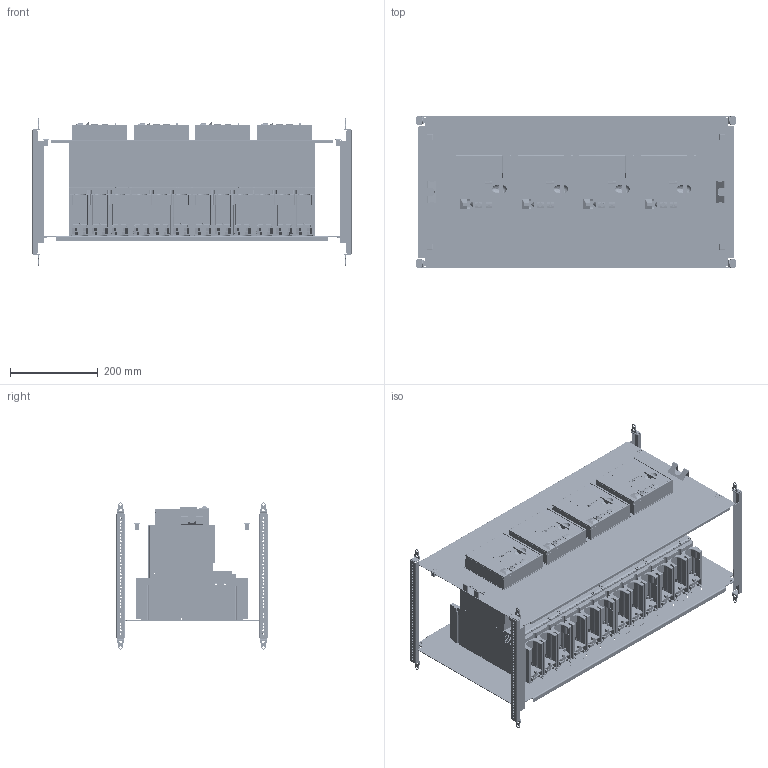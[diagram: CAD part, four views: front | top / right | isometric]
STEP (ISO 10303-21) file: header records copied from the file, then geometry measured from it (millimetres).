
FILE_DESCRIPTION(('CAx-IF Rec.Pracs.---Model Styling and Organization---1.2---2011-12-15','CAx-IF Rec.Pracs.---Geometric and Assembly Validation Properties---4.1---2014-06-16','CAx-IF Rec.Pracs.---PMI Polyline Presentation---2.0---2013-05-24'),'2;1');
FILE_NAME('R5PKIB7V81216 (F-MO).stp','2021-07-29T03:17:25+03:00',(''),(''),'STEP Interface 4.4 by CT CoreTechnologie','3D_Evolution4.4 by CT CoreTechnologie','');
FILE_SCHEMA(('AUTOMOTIVE_DESIGN { 1 0 10303 214 1 1 1 1 }'));
Length unit declared in the file: millimetre
Products named in the file (1): R5PKIB7V81216 (F-MO)
Bounding box: 726 x 348 x 335 mm (x, y, z)
Surface area: 5114790.7 mm2 (no closed solid volume)
Topology: 0 solids, 215 shells, 30016 faces, 88348 edges, 58212 vertices
Faces by surface type: plane 20502, cylinder 7982, bspline 1532
Entity records: 1024324 total; most frequent: CARTESIAN_POINT 216515, ORIENTED_EDGE 175868, DIRECTION 160736, EDGE_CURVE 87956, VECTOR 70046, LINE 70046, VERTEX_POINT 58312, AXIS2_PLACEMENT_3D 45345
